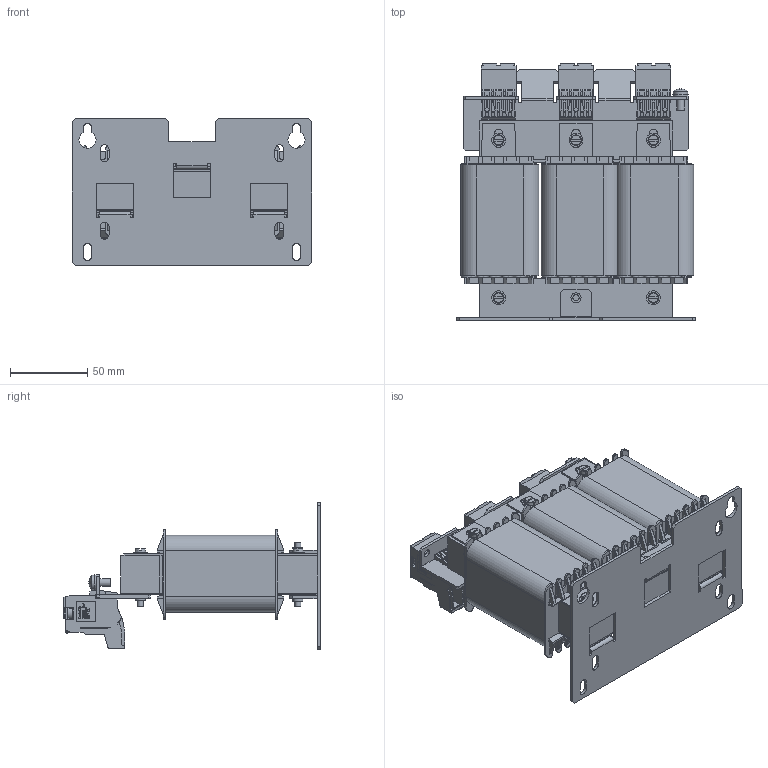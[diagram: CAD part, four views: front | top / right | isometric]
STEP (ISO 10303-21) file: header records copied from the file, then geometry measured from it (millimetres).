
FILE_DESCRIPTION (( 'STEP AP214' ), '1' );
FILE_NAME ('PCT-025.STEP', '2015-04-28T10:45:51', ( 'EDV' ), ( 'Microsoft' ), 'SwSTEP 2.0', 'SolidWorks 2014', '' );
FILE_SCHEMA (( 'AUTOMOTIVE_DESIGN' ));
Length unit declared in the file: millimetre
Products named in the file (12): Plain Washer Grade A_DIN_Washer DIN 125 - A 5.3; Pan Head Cross Recess Screw_DIN_ISO 7045 - M5 x 10 - Z --- 10N; BTK 10_2 +2202-0024; Plain Washer Grade A_DIN_Washer DIN 125 - A 4.3; Slotted Cheese Head Screw_DIN_ISO 1207 - M4 x 35 --- 35N; Wickel 3UI 75_26,5; UI75-26,5oD; 3UI75-24,5_Luftspalt1,8mm; #080-0545_neu 220508; #144-0147; #040-1673; PCT-025
Assembly tree (28 placements, depth 2):
  PCT-025
    #040-1673
    #144-0147  x2
    #080-0545_neu 220508
    3UI75-24,5_Luftspalt1,8mm
    UI75-26,5oD  x3
    Wickel 3UI 75_26,5  x3
    Slotted Cheese Head Screw_DIN_ISO 1207 - M4 x 35 --- 35N  x6
    Plain Washer Grade A_DIN_Washer DIN 125 - A 4.3  x6
    BTK 10_2 +2202-0024  x3
    Pan Head Cross Recess Screw_DIN_ISO 7045 - M5 x 10 - Z --- 10N
    Plain Washer Grade A_DIN_Washer DIN 125 - A 5.3
Bounding box: 155 x 165.8 x 95 mm (x, y, z)
Volume: 796239.3 mm3; surface area: 332735.1 mm2
Topology: 30 solids, 30 shells, 7584 faces, 21076 edges, 13694 vertices
Faces by surface type: plane 6104, cylinder 1070, bspline 336, torus 62, cone 11, sphere 1
Full cylindrical faces by diameter (mm): 2.779 x1, 3.7 x6, 4 x6, 4.3 x6, 4.6 x2, 5 x1, 5.3 x1, 5.4 x6, 5.5 x6, 6.5 x6, 6.95 x1, 7.15 x1, 9 x6, 9.5 x1, 10 x1
Entity records: 108405 total; most frequent: CARTESIAN_POINT 27299, ORIENTED_EDGE 16936, DIRECTION 14545, EDGE_CURVE 8468, VECTOR 7253, LINE 7253, VERTEX_POINT 5535, AXIS2_PLACEMENT_3D 3646
